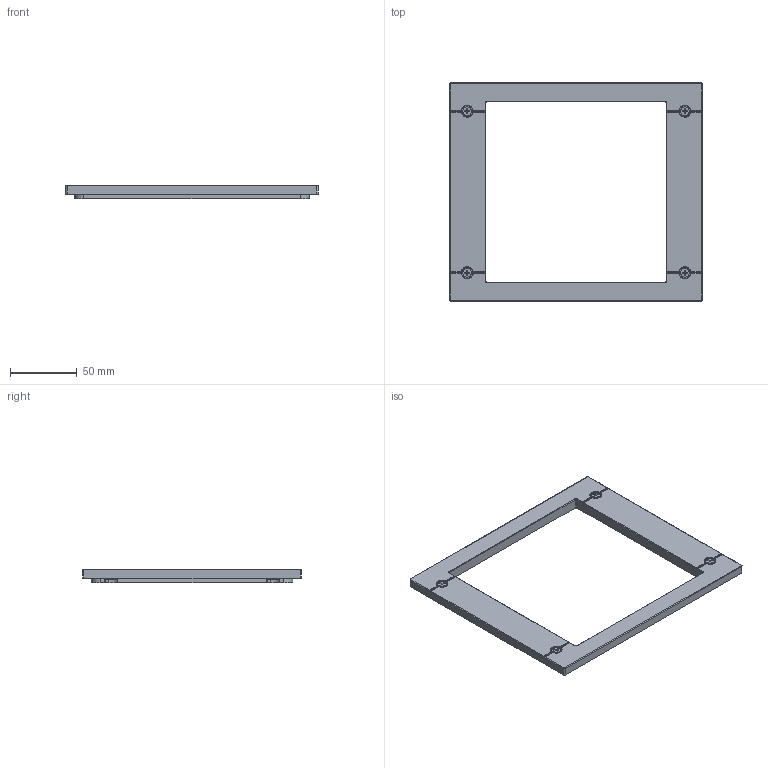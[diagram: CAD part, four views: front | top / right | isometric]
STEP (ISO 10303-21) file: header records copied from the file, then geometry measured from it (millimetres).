
FILE_DESCRIPTION(('STEP AP203'), '1');
FILE_NAME('Ðàìêà ïåðåäíåé ïàíåëè IP40 - ÂÀ11-06', '2024-09-27T11:09:04', (' '), (''), 'C3D Converter', 'C3D Toolkit', '');
FILE_SCHEMA(('CONFIG_CONTROL_DESIGN'));
Length unit declared in the file: millimetre
Products named in the file (1): рамка ВА11-06
Bounding box: 189 x 164 x 10 mm (x, y, z)
Volume: 52306.2 mm3; surface area: 55685.8 mm2
Topology: 1 solids, 1 shells, 431 faces, 1148 edges, 744 vertices
Faces by surface type: plane 235, cylinder 176, torus 20
Full cylindrical faces by diameter (mm): 2 x4, 3.2 x4, 6.5 x4
Entity records: 18270 total; most frequent: CARTESIAN_POINT 3946, ORIENTED_EDGE 2272, DIRECTION 2256, EDGE_CURVE 1136, AXIS2_PLACEMENT_3D 770, VERTEX_POINT 744, LINE 716, VECTOR 716
